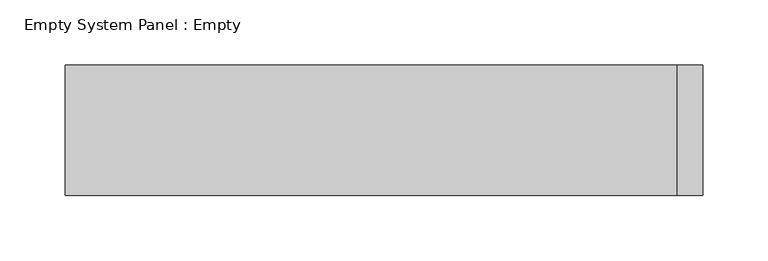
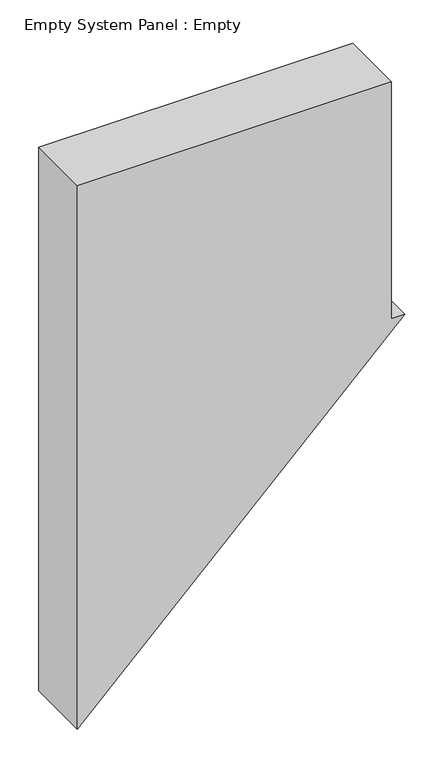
"""IFC4 building model written with IfcOpenShell, lengths in millimetres: plate geometry, Empty System Panel : Empty."""

from ifc_helpers import new_model, si_unit, frame, origin, place, context, project, spatial, polyline, outline, extrude, source, transform, mapped, element, save


def empty_system_panel_empty_3c2bfa24(model_context):
    return source(origin(), model_context, "Body", "SweptSolid", [
        extrude(outline(polyline([(0.0, -244.1589868), (483.6662514, 244.1589868), (483.6662514, 224.1589868), (857.1424258, 224.1589868), (857.1424258, -244.1589868), (0.0, -244.1589868)])), frame((0.0, -50.0, 0.0), z_axis=(0.0, 1.0, 0.0), x_axis=(0.0, 0.0, 1.0)), (0.0, 0.0, 1.0), 100.0),
    ])


if __name__ == "__main__":
    model = new_model("IFC4")
    model_context = context("Model", 3, world=origin())
    ifc_project = project(units=[si_unit("LENGTHUNIT", "METRE", prefix="MILLI")], contexts=[model_context])
    site = spatial("IfcSite", under=ifc_project)
    building = spatial("IfcBuilding", under=site)
    placement = place(None, origin())
    empty_system_panel_empty_shape = empty_system_panel_empty_3c2bfa24(model_context)
    element("IfcPlate", 1, ObjectType="Empty System Panel : Empty", at=placement, inside=building, context=model_context, shape_type="MappedRepresentation", body=[
        mapped(empty_system_panel_empty_shape, transform((0.0, 0.0, 0.0), x_axis=(1.0, 0.0, 0.0), y_axis=(0.0, 1.0, 0.0), z_axis=(0.0, 0.0, 1.0))),
    ])
    save(model, "model.ifc")
